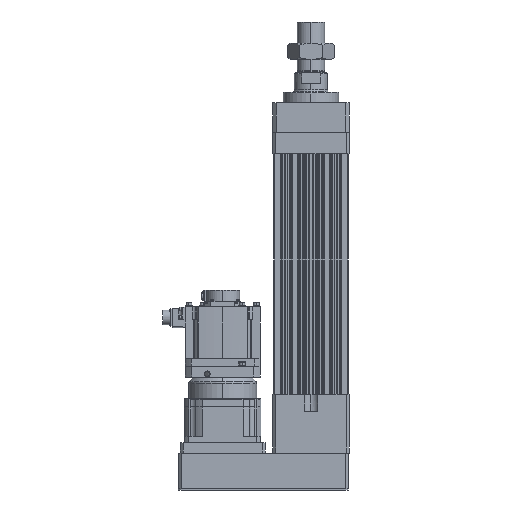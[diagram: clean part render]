
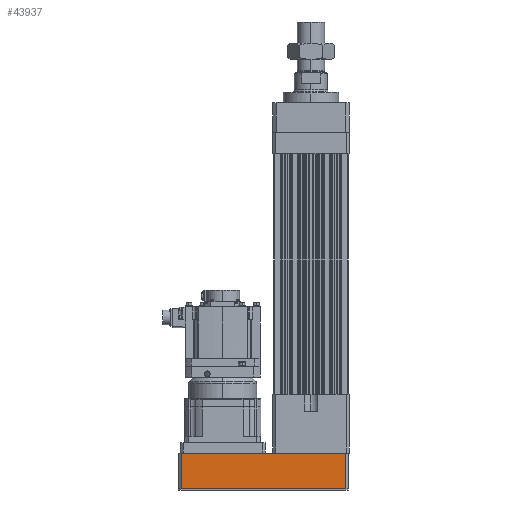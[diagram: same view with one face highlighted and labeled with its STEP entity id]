
A CAD part, left-side view. The second image highlights one B-rep face of the part: STEP entity #43937.
In plain terms, the highlighted planar face has unit normal (-1, 0, 0).
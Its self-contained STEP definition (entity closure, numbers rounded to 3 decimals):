
#1272 = AXIS2_PLACEMENT_3D ( 'NONE', #22881, #31380, #14938 ) ;
#1754 = CARTESIAN_POINT ( 'NONE',  ( -88., 306., -222. ) ) ;
#1897 = DIRECTION ( 'NONE',  ( 0., 0., 1. ) ) ;
#2939 = ORIENTED_EDGE ( 'NONE', *, *, #32217, .T. ) ;
#4182 = DIRECTION ( 'NONE',  ( 0., 1., 0. ) ) ;
#5265 = VERTEX_POINT ( 'NONE', #46209 ) ;
#5387 = EDGE_CURVE ( 'NONE', #31885, #5265, #12958, .T. ) ;
#6114 = CARTESIAN_POINT ( 'NONE',  ( -88., -82., -221.5 ) ) ;
#7598 = EDGE_CURVE ( 'NONE', #31885, #12348, #21008, .T. ) ;
#8341 = VECTOR ( 'NONE', #34317, 1000. ) ;
#8890 = VECTOR ( 'NONE', #4182, 1000. ) ;
#12348 = VERTEX_POINT ( 'NONE', #38169 ) ;
#12958 = LINE ( 'NONE', #6114, #40157 ) ;
#14425 = ORIENTED_EDGE ( 'NONE', *, *, #7598, .F. ) ;
#14938 = DIRECTION ( 'NONE',  ( 0., 0., -1. ) ) ;
#20996 = CARTESIAN_POINT ( 'NONE',  ( -88., -82., -138.5 ) ) ;
#21008 = LINE ( 'NONE', #1754, #8341 ) ;
#21410 = CARTESIAN_POINT ( 'NONE',  ( -88., 306., -221.5 ) ) ;
#22184 = LINE ( 'NONE', #20996, #8890 ) ;
#22881 = CARTESIAN_POINT ( 'NONE',  ( -88., -82., -222. ) ) ;
#26368 = ORIENTED_EDGE ( 'NONE', *, *, #5387, .T. ) ;
#27119 = CARTESIAN_POINT ( 'NONE',  ( -88., -82., -138.5 ) ) ;
#28558 = VERTEX_POINT ( 'NONE', #27119 ) ;
#31380 = DIRECTION ( 'NONE',  ( 1., 0., 0. ) ) ;
#31885 = VERTEX_POINT ( 'NONE', #21410 ) ;
#32217 = EDGE_CURVE ( 'NONE', #28558, #12348, #22184, .T. ) ;
#34122 = CARTESIAN_POINT ( 'NONE',  ( -88., -82., -222. ) ) ;
#34317 = DIRECTION ( 'NONE',  ( 0., 0., 1. ) ) ;
#38012 = EDGE_CURVE ( 'NONE', #5265, #28558, #50739, .T. ) ;
#38169 = CARTESIAN_POINT ( 'NONE',  ( -88., 306., -138.5 ) ) ;
#38690 = DIRECTION ( 'NONE',  ( 0., -1., 0. ) ) ;
#40157 = VECTOR ( 'NONE', #38690, 1000. ) ;
#41269 = EDGE_LOOP ( 'NONE', ( #14425, #26368, #42625, #2939 ) ) ;
#42625 = ORIENTED_EDGE ( 'NONE', *, *, #38012, .T. ) ;
#43047 = VECTOR ( 'NONE', #1897, 1000. ) ;
#43937 = ADVANCED_FACE ( 'NONE', ( #52339 ), #47048, .F. ) ;
#46209 = CARTESIAN_POINT ( 'NONE',  ( -88., -82., -221.5 ) ) ;
#47048 = PLANE ( 'NONE',  #1272 ) ;
#50739 = LINE ( 'NONE', #34122, #43047 ) ;
#52339 = FACE_OUTER_BOUND ( 'NONE', #41269, .T. ) ;
